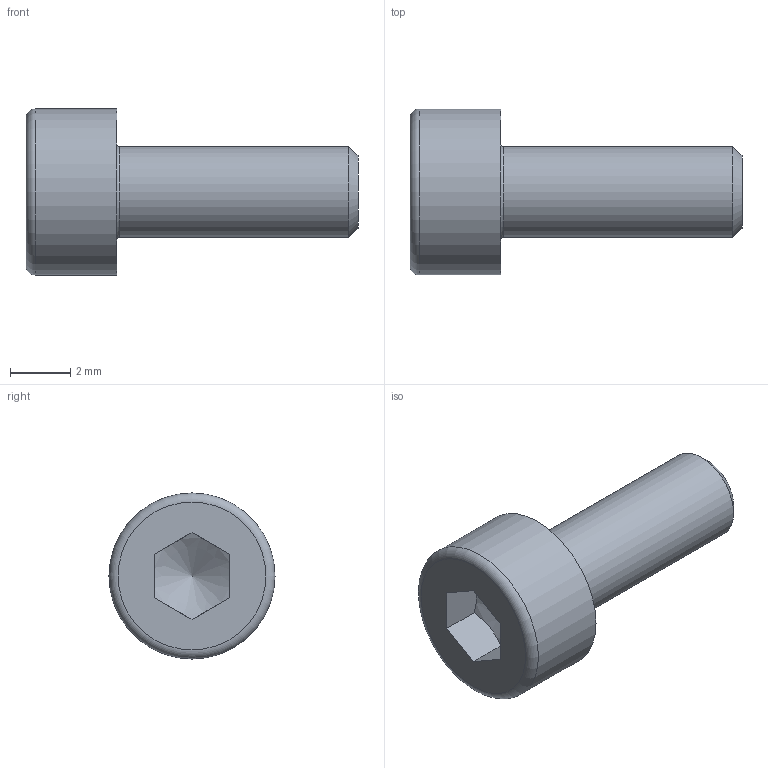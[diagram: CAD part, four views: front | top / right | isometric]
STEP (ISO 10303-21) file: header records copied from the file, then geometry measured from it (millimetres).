
FILE_DESCRIPTION(/* description */ ('6각머리 태핑 나사'),/* implementation_level */ '2;1');
FILE_NAME(/* name */ '',/* time_stamp */ '2026-05-29T16:39:39+09:00',/* author */ ('jhkim'),/* organization */ (''),/* preprocessor_version */ 'ST-DEVELOPER v20.1',/* originating_system */ 'Autodesk Inventor 2027',/* authorisation */ '');
FILE_SCHEMA (('AUTOMOTIVE_DESIGN { 1 0 10303 214 3 1 1 }'));
Length unit declared in the file: millimetre
Products named in the file (1): 6각 구멍붙이 볼트 
M3x8
Bounding box: 11 x 5.5 x 5.5 mm (x, y, z)
Volume: 118.3 mm3; surface area: 183 mm2
Topology: 1 solids, 1 shells, 15 faces, 36 edges, 24 vertices
Faces by surface type: plane 9, torus 2, cylinder 2, cone 2
Full cylindrical faces by diameter (mm): 3 x1, 5.5 x1
Entity records: 473 total; most frequent: CARTESIAN_POINT 89, DIRECTION 72, ORIENTED_EDGE 70, EDGE_CURVE 35, AXIS2_PLACEMENT_3D 28, VERTEX_POINT 24, EDGE_LOOP 17, LINE 16
